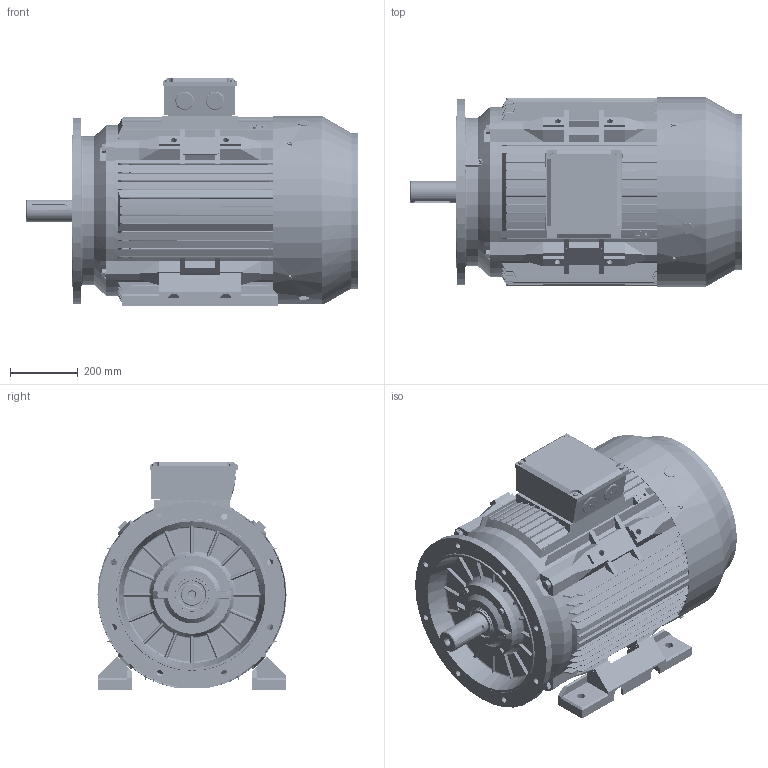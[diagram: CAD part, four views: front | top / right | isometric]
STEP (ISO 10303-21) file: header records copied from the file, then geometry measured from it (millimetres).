
FILE_DESCRIPTION (( 'STEP AP214' ), '1' );
FILE_NAME ('BCT4750.28A235.11.step', '2020-04-23T13:55:16', ( '' ), ( '' ), 'SwSTEP 2.0', 'SolidWorks 2019', '' );
FILE_SCHEMA (( 'AUTOMOTIVE_DESIGN' ));
Length unit declared in the file: millimetre
Products named in the file (1): BCT4750.28A235.11
Bounding box: 981.2 x 559 x 671.14 mm (x, y, z)
Volume: 37382669.7 mm3; surface area: 7048448.7 mm2
Topology: 43 solids, 44 shells, 10033 faces, 29402 edges, 19393 vertices
Faces by surface type: plane 5008, cylinder 4237, cone 318, torus 231, sphere 124, bspline 115
Entity records: 367393 total; most frequent: CARTESIAN_POINT 93420, ORIENTED_EDGE 58396, DIRECTION 56215, EDGE_CURVE 29198, VERTEX_POINT 19331, AXIS2_PLACEMENT_3D 19147, LINE 17921, VECTOR 17921
